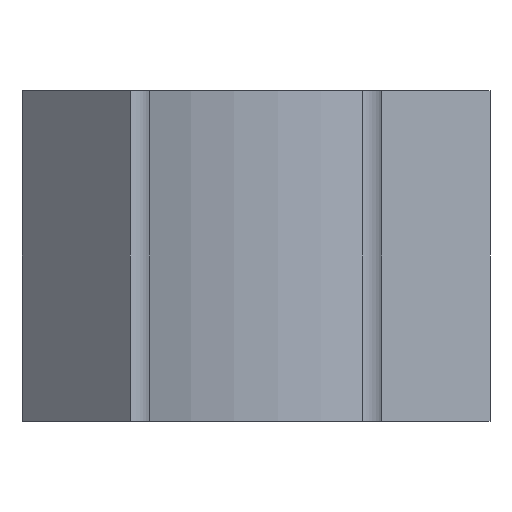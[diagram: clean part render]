
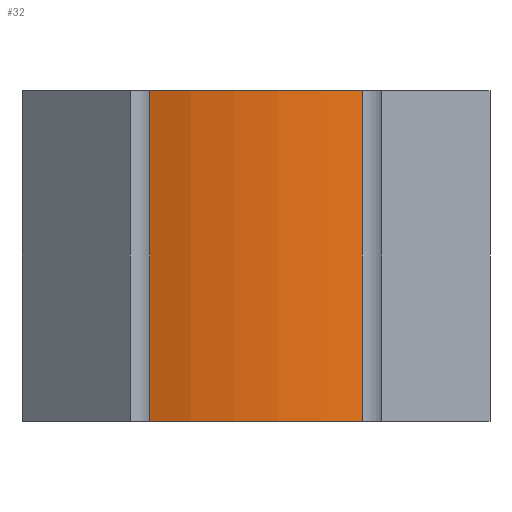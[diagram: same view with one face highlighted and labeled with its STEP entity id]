
A CAD part, front view. The second image highlights one B-rep face of the part: STEP entity #32.
In plain terms, the highlighted cylindrical face has radius 90 mm (diameter 180 mm), a partial arc.
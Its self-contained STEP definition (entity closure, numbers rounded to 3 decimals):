
#23 = CARTESIAN_POINT ( 'NONE',  ( 32.101, -30.264, 50. ) ) ;
#28 = AXIS2_PLACEMENT_3D ( 'NONE', #438, #241, #234 ) ;
#32 = ADVANCED_FACE ( 'NONE', ( #85 ), #182, .T. ) ;
#41 = VERTEX_POINT ( 'NONE', #23 ) ;
#45 = CARTESIAN_POINT ( 'NONE',  ( -32.101, -30.264, -50. ) ) ;
#61 = VECTOR ( 'NONE', #278, 1000. ) ;
#75 = EDGE_CURVE ( 'NONE', #310, #295, #209, .T. ) ;
#83 = EDGE_CURVE ( 'NONE', #208, #41, #247, .T. ) ;
#85 = FACE_OUTER_BOUND ( 'NONE', #270, .T. ) ;
#91 = ORIENTED_EDGE ( 'NONE', *, *, #83, .F. ) ;
#123 = DIRECTION ( 'NONE',  ( 1., 0., 0. ) ) ;
#125 = ORIENTED_EDGE ( 'NONE', *, *, #75, .T. ) ;
#142 = LINE ( 'NONE', #314, #219 ) ;
#163 = DIRECTION ( 'NONE',  ( -1., 0., 0. ) ) ;
#182 = CYLINDRICAL_SURFACE ( 'NONE', #324, 90. ) ;
#208 = VERTEX_POINT ( 'NONE', #294 ) ;
#209 = CIRCLE ( 'NONE', #28, 90. ) ;
#219 = VECTOR ( 'NONE', #244, 1000. ) ;
#234 = DIRECTION ( 'NONE',  ( 1., 0., 0. ) ) ;
#241 = DIRECTION ( 'NONE',  ( 0., 0., 1. ) ) ;
#244 = DIRECTION ( 'NONE',  ( 0., 0., -1. ) ) ;
#247 = CIRCLE ( 'NONE', #359, 90. ) ;
#270 = EDGE_LOOP ( 'NONE', ( #125, #304, #91, #289 ) ) ;
#278 = DIRECTION ( 'NONE',  ( 0., 0., -1. ) ) ;
#289 = ORIENTED_EDGE ( 'NONE', *, *, #436, .T. ) ;
#292 = CARTESIAN_POINT ( 'NONE',  ( 32.101, -30.264, -50. ) ) ;
#294 = CARTESIAN_POINT ( 'NONE',  ( -32.101, -30.264, 50. ) ) ;
#295 = VERTEX_POINT ( 'NONE', #292 ) ;
#304 = ORIENTED_EDGE ( 'NONE', *, *, #424, .F. ) ;
#310 = VERTEX_POINT ( 'NONE', #45 ) ;
#314 = CARTESIAN_POINT ( 'NONE',  ( -32.101, -30.264, 50. ) ) ;
#324 = AXIS2_PLACEMENT_3D ( 'NONE', #442, #403, #163 ) ;
#325 = LINE ( 'NONE', #441, #61 ) ;
#335 = CARTESIAN_POINT ( 'NONE',  ( 0., 53.816, 50. ) ) ;
#343 = DIRECTION ( 'NONE',  ( 0., 0., 1. ) ) ;
#359 = AXIS2_PLACEMENT_3D ( 'NONE', #335, #343, #123 ) ;
#403 = DIRECTION ( 'NONE',  ( 0., 0., -1. ) ) ;
#424 = EDGE_CURVE ( 'NONE', #41, #295, #325, .T. ) ;
#436 = EDGE_CURVE ( 'NONE', #208, #310, #142, .T. ) ;
#438 = CARTESIAN_POINT ( 'NONE',  ( 0., 53.816, -50. ) ) ;
#441 = CARTESIAN_POINT ( 'NONE',  ( 32.101, -30.264, 50. ) ) ;
#442 = CARTESIAN_POINT ( 'NONE',  ( 0., 53.816, 50. ) ) ;
